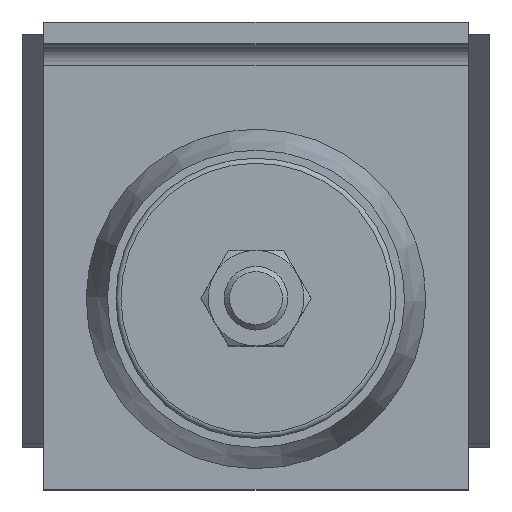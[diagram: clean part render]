
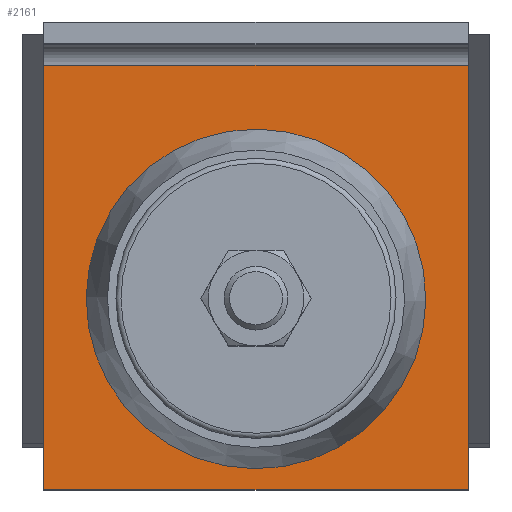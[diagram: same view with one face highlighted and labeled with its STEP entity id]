
A CAD part, top view. The second image highlights one B-rep face of the part: STEP entity #2161.
In plain terms, the highlighted planar face has unit normal (0, 0, 1).
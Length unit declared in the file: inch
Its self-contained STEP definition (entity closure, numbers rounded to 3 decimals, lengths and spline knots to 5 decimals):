
#173=LINE('',#2988,#281);
#194=LINE('',#3029,#302);
#201=LINE('',#3045,#309);
#221=LINE('',#3085,#329);
#226=LINE('',#3116,#334);
#232=LINE('',#3129,#340);
#235=LINE('',#3135,#343);
#237=LINE('',#3139,#345);
#281=VECTOR('',#2487,1.41421);
#302=VECTOR('',#2522,0.30178);
#309=VECTOR('',#2533,0.78401);
#329=VECTOR('',#2565,1.41421);
#334=VECTOR('',#2600,0.78401);
#340=VECTOR('',#2610,0.30178);
#343=VECTOR('',#2619,2.5);
#345=VECTOR('',#2625,2.5);
#408=PLANE('',#2321);
#460=FACE_BOUND('',#679,.T.);
#529=FACE_OUTER_BOUND('',#678,.T.);
#678=EDGE_LOOP('',(#1537,#1538,#1539,#1540,#1541,#1542,#1543,#1544));
#679=EDGE_LOOP('',(#1545));
#831=CIRCLE('',#2282,0.53125);
#913=VERTEX_POINT('',#2981);
#915=VERTEX_POINT('',#2986);
#916=VERTEX_POINT('',#2987);
#929=VERTEX_POINT('',#3028);
#936=VERTEX_POINT('',#3043);
#946=VERTEX_POINT('',#3068);
#949=VERTEX_POINT('',#3079);
#961=VERTEX_POINT('',#3115);
#966=VERTEX_POINT('',#3127);
#1109=EDGE_CURVE('',#913,#913,#831,.T.);
#1111=EDGE_CURVE('',#915,#916,#173,.T.);
#1132=EDGE_CURVE('',#916,#929,#194,.T.);
#1141=EDGE_CURVE('',#936,#915,#201,.T.);
#1161=EDGE_CURVE('',#949,#946,#221,.T.);
#1174=EDGE_CURVE('',#946,#961,#226,.T.);
#1182=EDGE_CURVE('',#966,#949,#232,.T.);
#1185=EDGE_CURVE('',#936,#961,#235,.T.);
#1187=EDGE_CURVE('',#929,#966,#237,.T.);
#1537=ORIENTED_EDGE('',*,*,#1185,.T.);
#1538=ORIENTED_EDGE('',*,*,#1174,.F.);
#1539=ORIENTED_EDGE('',*,*,#1161,.F.);
#1540=ORIENTED_EDGE('',*,*,#1182,.F.);
#1541=ORIENTED_EDGE('',*,*,#1187,.F.);
#1542=ORIENTED_EDGE('',*,*,#1132,.F.);
#1543=ORIENTED_EDGE('',*,*,#1111,.F.);
#1544=ORIENTED_EDGE('',*,*,#1141,.F.);
#1545=ORIENTED_EDGE('',*,*,#1109,.T.);
#2161=ADVANCED_FACE('',(#529,#460),#408,.T.);
#2282=AXIS2_PLACEMENT_3D('',#2982,#2481,#2482);
#2321=AXIS2_PLACEMENT_3D('',#3138,#2623,#2624);
#2481=DIRECTION('center_axis',(0.,0.,
-1.));
#2482=DIRECTION('ref_axis',(1.,0.,0.));
#2487=DIRECTION('',(0.,-1.,0.));
#2522=DIRECTION('',(0.,-1.,0.));
#2533=DIRECTION('',(0.,-1.,0.));
#2565=DIRECTION('',(0.,1.,0.));
#2600=DIRECTION('',(0.,1.,0.));
#2610=DIRECTION('',(0.,1.,0.));
#2619=DIRECTION('',(-1.,0.,0.));
#2623=DIRECTION('center_axis',(0.,0.,
1.));
#2624=DIRECTION('ref_axis',(1.,0.,0.));
#2625=DIRECTION('',(-1.,0.,0.));
#2981=CARTESIAN_POINT('',(0.53125,0.,0.125));
#2982=CARTESIAN_POINT('Origin',(0.,0.,
0.125));
#2986=CARTESIAN_POINT('',(1.25,0.59099,0.125));
#2987=CARTESIAN_POINT('',(1.25,-0.82322,0.125));
#2988=CARTESIAN_POINT('',(1.25,1.625,0.125));
#3028=CARTESIAN_POINT('',(1.25,-1.125,0.125));
#3029=CARTESIAN_POINT('',(1.25,1.625,0.125));
#3043=CARTESIAN_POINT('',(1.25,1.375,0.125));
#3045=CARTESIAN_POINT('',(1.25,1.625,0.125));
#3068=CARTESIAN_POINT('',(-1.25,0.59099,0.125));
#3079=CARTESIAN_POINT('',(-1.25,-0.82322,0.125));
#3085=CARTESIAN_POINT('',(-1.25,-1.125,0.125));
#3115=CARTESIAN_POINT('',(-1.25,1.375,0.125));
#3116=CARTESIAN_POINT('',(-1.25,-1.125,0.125));
#3127=CARTESIAN_POINT('',(-1.25,-1.125,0.125));
#3129=CARTESIAN_POINT('',(-1.25,-1.125,0.125));
#3135=CARTESIAN_POINT('',(-0.625,1.375,0.125));
#3138=CARTESIAN_POINT('Origin',(0.,0.25,0.125));
#3139=CARTESIAN_POINT('',(1.25,-1.125,0.125));
